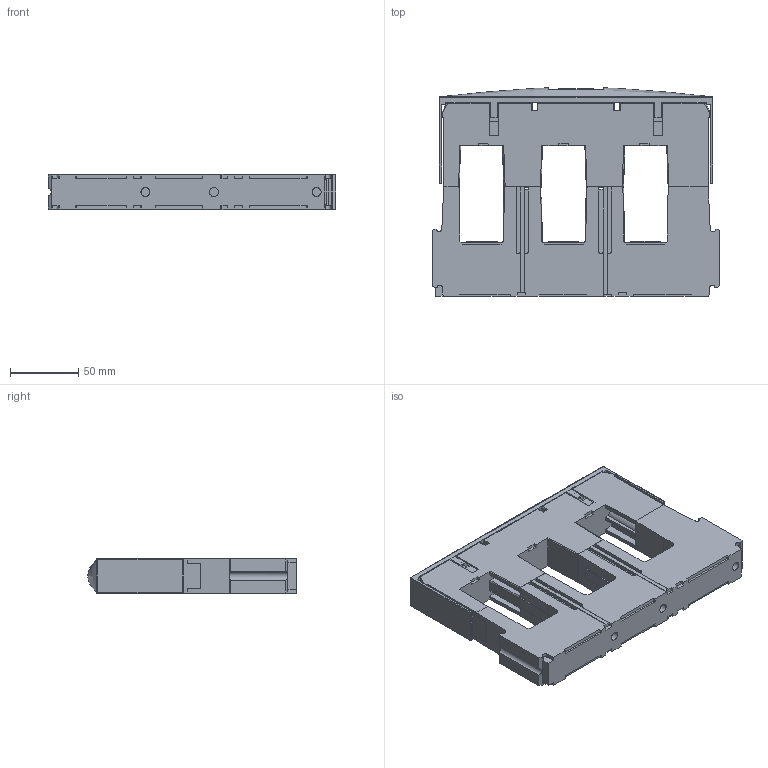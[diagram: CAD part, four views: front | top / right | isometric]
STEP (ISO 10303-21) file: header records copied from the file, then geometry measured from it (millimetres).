
FILE_DESCRIPTION (( 'STEP AP214' ), '1' );
FILE_NAME ('52232.STEP', '2021-08-11T03:26:42', ( '' ), ( '' ), 'SwSTEP 2.0', 'SolidWorks 2017', '' );
FILE_SCHEMA (( 'AUTOMOTIVE_DESIGN' ));
Length unit declared in the file: millimetre
Products named in the file (2): 52232
Bounding box: 210 x 152.12 x 25.8 mm (x, y, z)
Volume: 476937.6 mm3; surface area: 143295.9 mm2
Topology: 3 solids, 21 shells, 1015 faces, 2766 edges, 1780 vertices
Faces by surface type: plane 662, cylinder 296, bspline 18, sphere 18, cone 11, torus 10
Full cylindrical faces by diameter (mm): 6.5 x7, 7.9 x4, 12 x4, 13 x1
Entity records: 44500 total; most frequent: CARTESIAN_POINT 10947, ORIENTED_EDGE 5428, DIRECTION 4807, EDGE_CURVE 2714, VECTOR 1959, LINE 1959, VERTEX_POINT 1771, AXIS2_PLACEMENT_3D 1424
